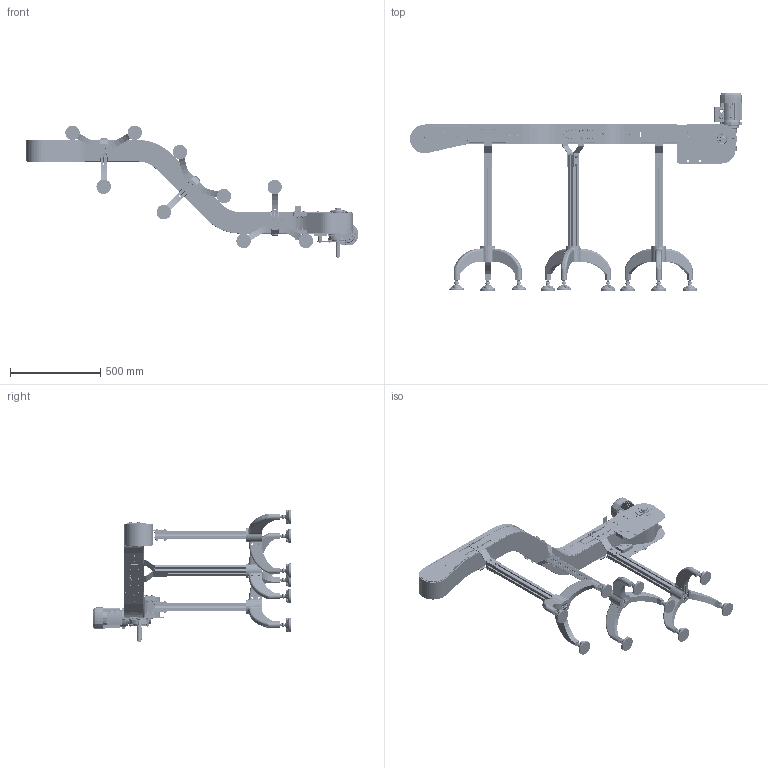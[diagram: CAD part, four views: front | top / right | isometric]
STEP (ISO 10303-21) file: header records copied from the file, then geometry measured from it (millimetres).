
FILE_DESCRIPTION (( 'STEP AP203' ), '1' );
FILE_NAME ('NASTRO_CATENA.step', '2026-04-20T14:59:42', ( 'Utente Windows' ), ( '' ), 'SwSTEP 2.0', 'SolidWorks 2024', '' );
FILE_SCHEMA (( 'CONFIG_CONTROL_DESIGN' ));
Length unit declared in the file: millimetre
Products named in the file (70): GRANI A PUNTA CONICA UNI 5927 INOX_M8x14 UNI 5927 INOX; NASTRO_CATENA; 084.302.016; VITI TCEI UNI 5931 INOX_M6x30 UNI 5931 INOX; 084.802.027; CATENA_SDX; 2000.450.003; CHIAVETTE_A 8x7x70 UNI 6604-69; 2000.001.402; 2000.450.435; RONDELLE FASCIA LARGA UNI 6593 INOX_8.4x32 UNI 6593 INOX; K450_R_P; 2000.001.206-2; SBPF205; 084.808.004; FLANGIA_GAMBE_KP450; 2000.001.001; VITI TE UNI 5739 INOX_M6x30 UNI 5739 INOX; VITI TE UNI 5739 INOX_M6x12 UNI 5739 INOX; K450_45°_D_P; VITI TSEI UNI 5933 INOX_0820UNI5933A2; 084.402.004; 25UNI7435; 2000.001.003-3; GRANI A PUNTA PIATTA UNI 5923_M8x20 UNI 5923; 2000.450.002; K450_DIR_49_P_SX_MOTORE A DESTRA; 2000.001.207-2; 2000.450.001; RONDELLE FASCIA LARGA UNI 6593 INOX_8.4x24 UNI 6593 INOX; 2000.450.104-2; 2000.001.208-1; 2000.450.103-2; 2000.882.750; 084.408.001; 2000.450.101-1; 2000.450.005_Default<A macchina>; 084.302.000 DADI ALUSIC 13x13-1_084.302.008; CH05P_SX; K450_1_Default<A macchina>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
Assembly tree (235 placements, depth 3):
  NASTRO_CATENA
    K450_1_Default<A macchina>
    K450_7_Default<A macchina>
    K450_8_Default<A macchina>
    K450_DIR_49_P_SX_MOTORE A DESTRA
      084.802.027
      2000.001.006-2  x2
      2000.001.001  x2
      2000.001.004-3
      2000.001.003-3
      2000.001.011
      2000.450.101-1
      2000.450.001  x2
      2000.450.103-2
      2000.450.104-2
      2000.450.002  x2
      084.808.004
      PU008.012.025N
      CHIAVETTE_A 8x7x70 UNI 6604-69
      CHIAVETTE_A 8x7x50 UNI 6604-69
      SBPF205  x2
      663151_NS880T12R25
      VITI TSEI UNI 5933 INOX_0410UNI5933A2  x8
      GRANI A PUNTA CONICA UNI 5927_M8x16 UNI 5927  x8
      VITI TCEI UNI 5931 INOX_M6x30 UNI 5931 INOX  x2
      VITI TE UNI 5739 INOX_M8x20 UNI 5739 INOX
      RONDELLE FASCIA LARGA UNI 6593 INOX_8.4x32 UNI 6593 INOX
      GRANI A PUNTA PIATTA UNI 5923_M8x20 UNI 5923
      RONDELLE FASCIA LARGA UNI 6593 INOX_8.4x24 UNI 6593 INOX
      VITI TE UNI 5739 INOX_M8x16 UNI 5739 INOX  x7
      DADI ESAGONALI AUTOBLOCCANTI UNI 7473 INOX_M6 UNI 7473 INOX  x4
      084.312.006  x6
      VITI TE UNI 5739 INOX_M6x20 UNI 5739 INOX  x6
      VITI TE UNI 5739 INOX_M6x30 UNI 5739 INOX  x4
      VITI TE UNI 5739 INOX_M6x12 UNI 5739 INOX  x4
    K450_45°_S_P
      2000.001.402  x4
      2000.450.005_Default<A macchina>  x2
      2000.450.433_2000.1200.490  x2
      2000.450.434
      2000.450.435
      VITI TSEI UNI 5933 INOX_0620UNI5933A2  x8
      VITI TSEI UNI 5933 INOX_0820UNI5933A2  x8
      084.302.000 DADI ALUSIC 13x13-1_084.302.008  x8
    K450_45°_D_P
      2000.001.402  x4
      2000.450.005_Default<A macchina>  x2
      2000.450.433_2000.1200.490  x2
      2000.450.434
      2000.450.435
      VITI TSEI UNI 5933 INOX_0620UNI5933A2  x8
      VITI TSEI UNI 5933 INOX_0820UNI5933A2  x8
      084.302.000 DADI ALUSIC 13x13-1_084.302.008  x8
    K450_R_P
      2000.001.206-2
      2000.001.207-2
      2000.450.201-1S
      2000.001.208-1
      2000.001.209-1
      2000.450.003  x2
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Bounding box: 1839.37 x 1092.67 x 735.67 mm (x, y, z)
Volume: 21712184.1 mm3; surface area: 7330012.8 mm2
Topology: 339 solids, 348 shells, 13619 faces, 32771 edges, 19999 vertices
Faces by surface type: plane 5167, cylinder 4483, cone 2713, bspline 656, torus 600
Entity records: 187640 total; most frequent: CARTESIAN_POINT 51162, DIRECTION 26555, ORIENTED_EDGE 25868, EDGE_CURVE 12945, AXIS2_PLACEMENT_3D 9749, VERTEX_POINT 8049, LINE 7057, VECTOR 7057
